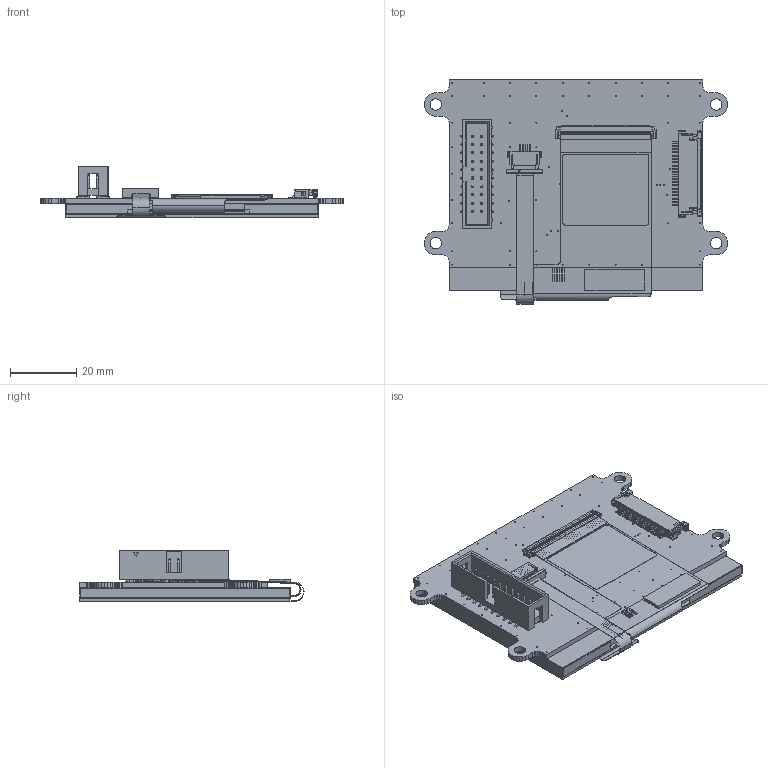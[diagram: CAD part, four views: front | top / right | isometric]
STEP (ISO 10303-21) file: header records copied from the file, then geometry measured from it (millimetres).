
FILE_DESCRIPTION (( 'STEP AP203' ), '1' );
FILE_NAME ('NHD-3.5-320240FT-CSXP-T.STEP', '2022-06-29T16:02:08', ( '' ), ( '' ), 'SwSTEP 2.0', 'SolidWorks 2019', '' );
FILE_SCHEMA (( 'CONFIG_CONTROL_DESIGN' ));
Length unit declared in the file: millimetre
Products named in the file (1): NHD-3.5-320240FT-CSXP-T
Bounding box: 92 x 67.88 x 15.71 mm (x, y, z)
Volume: 28644.3 mm3; surface area: 52195 mm2
Topology: 12 solids, 12 shells, 5675 faces, 16768 edges, 10846 vertices
Faces by surface type: plane 4899, cylinder 559, cone 209, bspline 8
Entity records: 188146 total; most frequent: CARTESIAN_POINT 36761, ORIENTED_EDGE 33448, DIRECTION 28409, EDGE_CURVE 16724, LINE 14481, VECTOR 14481, VERTEX_POINT 10846, AXIS2_PLACEMENT_3D 6964
